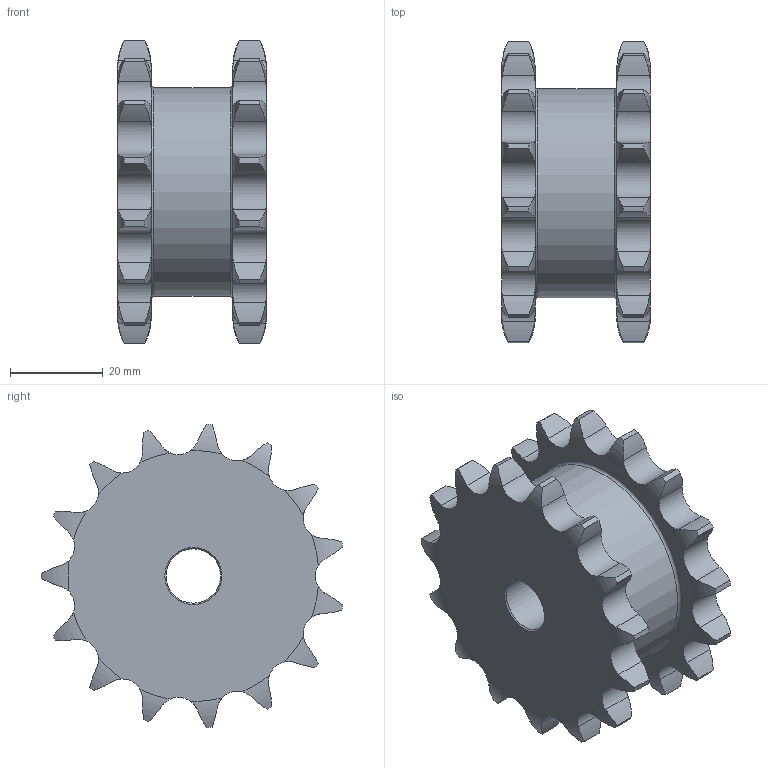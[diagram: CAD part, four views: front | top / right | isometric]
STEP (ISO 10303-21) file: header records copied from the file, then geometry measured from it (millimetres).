
FILE_DESCRIPTION(/* description */ (''),/* implementation_level */ '2;1');
FILE_NAME(/* name */ 'C:\Users\stagistaCAD\Desktop\Nuova cartella\23212015.stp',/* time_stamp */ '2018-06-25T11:20:53+02:00',/* author */ ('stagistacad'),/* organization */ (''),/* preprocessor_version */ 'ST-DEVELOPER v15.6',/* originating_system */ 'Autodesk Inventor 2015',/* authorisation */ '');
FILE_SCHEMA (('AUTOMOTIVE_DESIGN { 1 0 10303 214 3 1 1 }'));
Length unit declared in the file: millimetre
Products named in the file (1): 23212015
Bounding box: 32 x 64.97 x 65.33 mm (x, y, z)
Volume: 61297.7 mm3; surface area: 14235.9 mm2
Topology: 1 solids, 1 shells, 190 faces, 554 edges, 368 vertices
Faces by surface type: cylinder 122, torus 62, plane 4, cone 2
Full cylindrical faces by diameter (mm): 11.7 x1, 45 x1
Entity records: 7052 total; most frequent: CARTESIAN_POINT 2307, ORIENTED_EDGE 1096, DIRECTION 878, EDGE_CURVE 548, AXIS2_PLACEMENT_3D 379, VERTEX_POINT 368, B_SPLINE_CURVE_WITH_KNOTS 240, EDGE_LOOP 200
